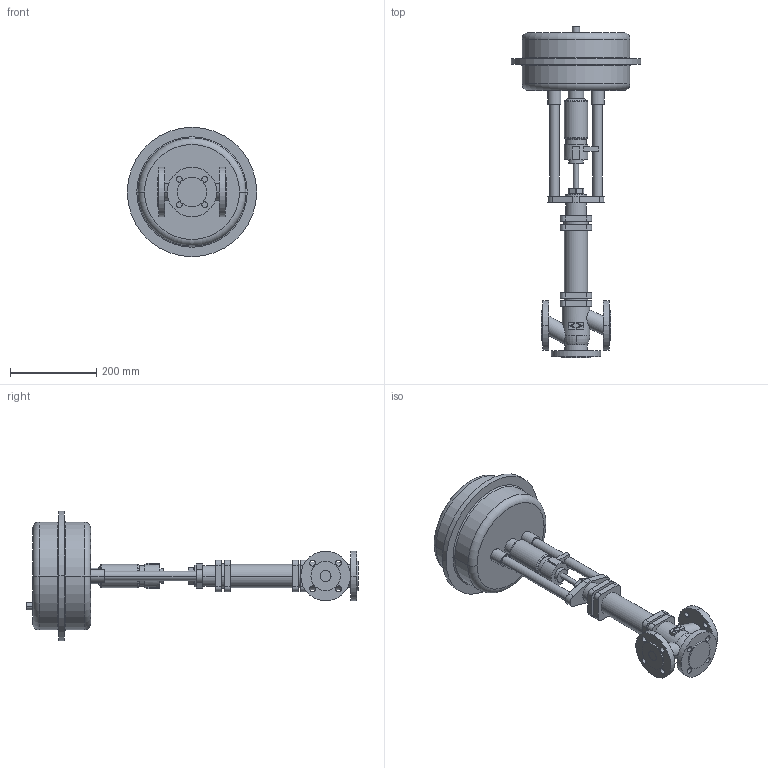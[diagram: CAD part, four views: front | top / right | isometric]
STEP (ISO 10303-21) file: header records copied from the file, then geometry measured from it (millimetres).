
FILE_DESCRIPTION(('OneSpaceDesigner STEP Export'),'2;1');
FILE_NAME('c000000706.stp','2006-09-21T 8:30:23',(''),(''),'OneSpace Designer STEP processor for AP214 (Solid Model)','OneSpace Designer 13.20A 18-Aug-2005 (C) CoCreate Software GmbH','');
FILE_SCHEMA(('AUTOMOTIVE_DESIGN { 1 0 10303 214 1 1 1 1 }'));
Length unit declared in the file: millimetre
Products named in the file (2): 1; 2
Bounding box: 300 x 769.6 x 300 mm (x, y, z)
Volume: 8997650.8 mm3; surface area: 497796 mm2
Topology: 2 solids, 2 shells, 236 faces, 578 edges, 381 vertices
Faces by surface type: cylinder 114, plane 100, torus 18, cone 4
Entity records: 6456 total; most frequent: CARTESIAN_POINT 1193, ORIENTED_EDGE 1156, DIRECTION 992, EDGE_CURVE 578, VERTEX_POINT 381, AXIS2_PLACEMENT_3D 355, EDGE_LOOP 295, VECTOR 282
